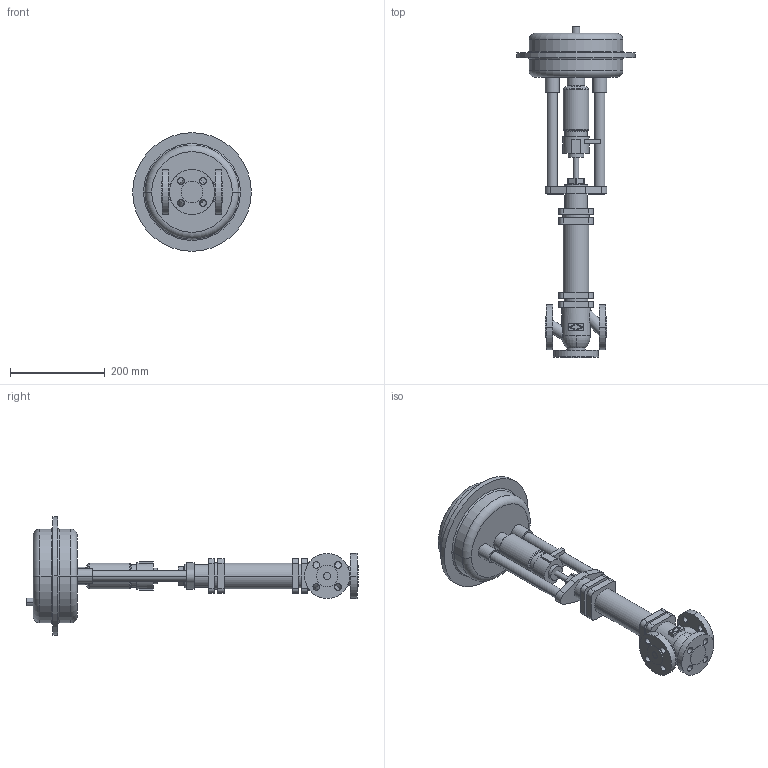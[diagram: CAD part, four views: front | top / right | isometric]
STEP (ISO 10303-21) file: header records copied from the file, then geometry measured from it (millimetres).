
FILE_DESCRIPTION(('OneSpaceDesigner STEP Export'),'2;1');
FILE_NAME('c000000743.stp','2006-09-20T11:29:05',(''),(''),'OneSpace Designer STEP processor for AP214 (Solid Model)','OneSpace Designer 13.20A 18-Aug-2005 (C) CoCreate Software GmbH','');
FILE_SCHEMA(('AUTOMOTIVE_DESIGN { 1 0 10303 214 1 1 1 1 }'));
Length unit declared in the file: millimetre
Products named in the file (2): 1; 2
Bounding box: 250 x 700 x 250 mm (x, y, z)
Volume: 4924502 mm3; surface area: 382351.7 mm2
Topology: 2 solids, 2 shells, 241 faces, 596 edges, 393 vertices
Faces by surface type: cylinder 121, plane 98, torus 18, cone 4
Entity records: 6779 total; most frequent: CARTESIAN_POINT 1418, ORIENTED_EDGE 1192, DIRECTION 998, EDGE_CURVE 596, VERTEX_POINT 393, AXIS2_PLACEMENT_3D 358, EDGE_LOOP 299, VECTOR 282
